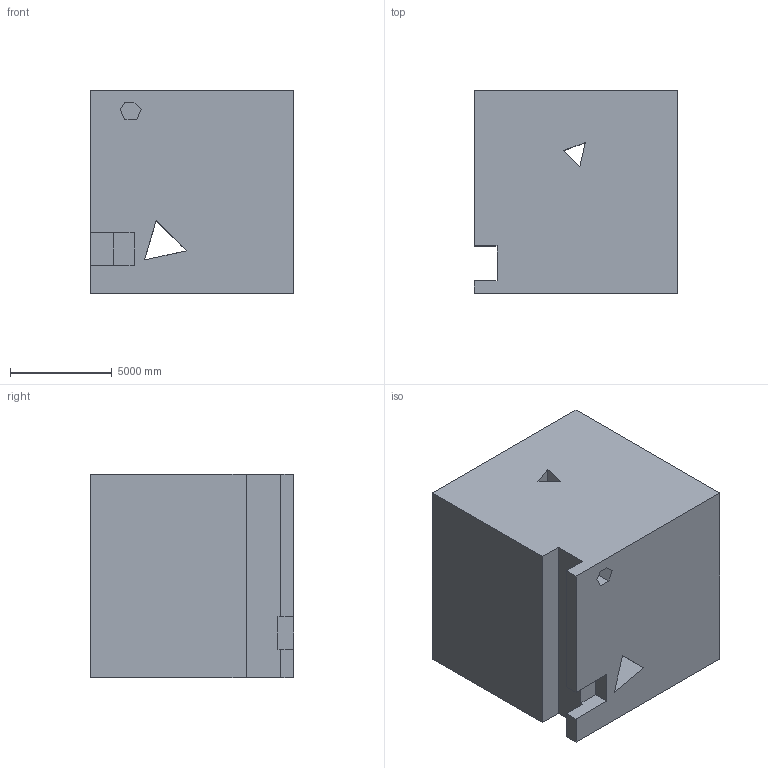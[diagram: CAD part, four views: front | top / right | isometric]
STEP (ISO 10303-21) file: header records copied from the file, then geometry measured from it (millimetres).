
FILE_DESCRIPTION (( 'STEP AP203' ), '1' );
FILE_NAME ('80.STEP', '2022-09-02T14:04:53', ( 'user' ), ( '' ), 'SwSTEP 2.0', 'SolidWorks 2021', '' );
FILE_SCHEMA (( 'CONFIG_CONTROL_DESIGN' ));
Length unit declared in the file: centimetre
Products named in the file (1): 80
Bounding box: 10000 x 10000 x 10000 mm (x, y, z)
Volume: 930295732855.2 mm3; surface area: 775480718.3 mm2
Topology: 1 solids, 1 shells, 48 faces, 141 edges, 94 vertices
Faces by surface type: plane 43, cylinder 5
Entity records: 1664 total; most frequent: CARTESIAN_POINT 302, ORIENTED_EDGE 282, DIRECTION 239, EDGE_CURVE 141, VECTOR 129, LINE 129, VERTEX_POINT 94, EDGE_LOOP 55
